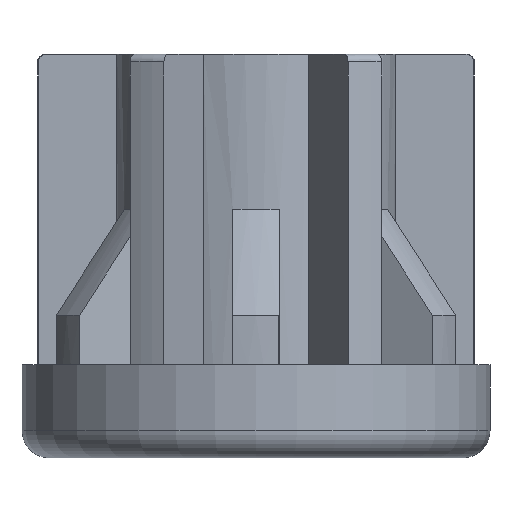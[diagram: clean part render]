
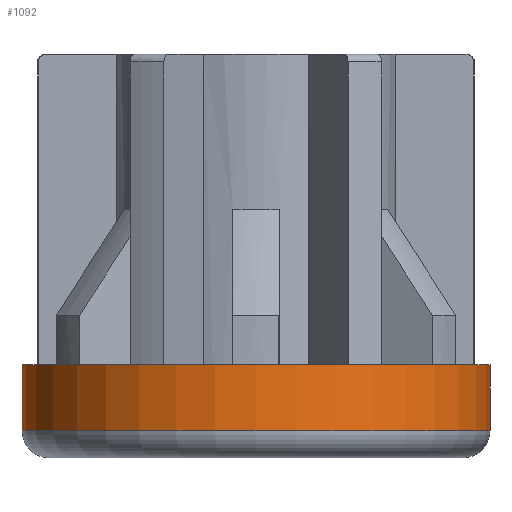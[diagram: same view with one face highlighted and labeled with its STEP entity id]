
A CAD part, front view. The second image highlights one B-rep face of the part: STEP entity #1092.
In plain terms, the highlighted cylindrical face has radius 30.15 mm (diameter 60.3 mm), a partial arc.
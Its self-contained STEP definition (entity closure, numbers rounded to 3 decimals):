
#262 = CARTESIAN_POINT ( 'NONE',  ( 30.15, 0., 11.25 ) ) ;
#347 = ORIENTED_EDGE ( 'NONE', *, *, #1572, .F. ) ;
#612 = DIRECTION ( 'NONE',  ( -1., 0., 0. ) ) ;
#688 = CIRCLE ( 'NONE', #1520, 30.15 ) ;
#732 = VECTOR ( 'NONE', #4115, 1000. ) ;
#788 = VERTEX_POINT ( 'NONE', #2884 ) ;
#1058 = ORIENTED_EDGE ( 'NONE', *, *, #1941, .T. ) ;
#1092 = ADVANCED_FACE ( 'NONE', ( #3381 ), #2428, .T. ) ;
#1239 = DIRECTION ( 'NONE',  ( 0., 0., -1. ) ) ;
#1340 = ORIENTED_EDGE ( 'NONE', *, *, #2157, .T. ) ;
#1352 = EDGE_CURVE ( 'NONE', #3855, #788, #2423, .T. ) ;
#1520 = AXIS2_PLACEMENT_3D ( 'NONE', #3557, #3239, #1630 ) ;
#1548 = CARTESIAN_POINT ( 'NONE',  ( 0., 0., 2.75 ) ) ;
#1572 = EDGE_CURVE ( 'NONE', #3855, #3873, #2051, .T. ) ;
#1630 = DIRECTION ( 'NONE',  ( -1., 0., 0. ) ) ;
#1712 = AXIS2_PLACEMENT_3D ( 'NONE', #2676, #2065, #2658 ) ;
#1787 = CARTESIAN_POINT ( 'NONE',  ( -30.15, 0., 2.75 ) ) ;
#1934 = AXIS2_PLACEMENT_3D ( 'NONE', #1548, #1239, #612 ) ;
#1941 = EDGE_CURVE ( 'NONE', #788, #2213, #688, .T. ) ;
#2051 = CIRCLE ( 'NONE', #1934, 30.15 ) ;
#2065 = DIRECTION ( 'NONE',  ( 0., 0., 1. ) ) ;
#2157 = EDGE_CURVE ( 'NONE', #2213, #3873, #2441, .T. ) ;
#2213 = VERTEX_POINT ( 'NONE', #2605 ) ;
#2261 = DIRECTION ( 'NONE',  ( 0., 0., -1. ) ) ;
#2305 = EDGE_LOOP ( 'NONE', ( #1340, #347, #3728, #1058 ) ) ;
#2310 = CARTESIAN_POINT ( 'NONE',  ( -30.15, 0., 11.25 ) ) ;
#2377 = CARTESIAN_POINT ( 'NONE',  ( 30.15, 0., 2.75 ) ) ;
#2423 = LINE ( 'NONE', #262, #732 ) ;
#2428 = CYLINDRICAL_SURFACE ( 'NONE', #1712, 30.15 ) ;
#2441 = LINE ( 'NONE', #2310, #3854 ) ;
#2605 = CARTESIAN_POINT ( 'NONE',  ( -30.15, 0., 11.25 ) ) ;
#2658 = DIRECTION ( 'NONE',  ( -1., 0., 0. ) ) ;
#2676 = CARTESIAN_POINT ( 'NONE',  ( 0., 0., 11.25 ) ) ;
#2884 = CARTESIAN_POINT ( 'NONE',  ( 30.15, 0., 11.25 ) ) ;
#3239 = DIRECTION ( 'NONE',  ( 0., 0., -1. ) ) ;
#3381 = FACE_OUTER_BOUND ( 'NONE', #2305, .T. ) ;
#3557 = CARTESIAN_POINT ( 'NONE',  ( 0., 0., 11.25 ) ) ;
#3728 = ORIENTED_EDGE ( 'NONE', *, *, #1352, .T. ) ;
#3854 = VECTOR ( 'NONE', #2261, 1000. ) ;
#3855 = VERTEX_POINT ( 'NONE', #2377 ) ;
#3873 = VERTEX_POINT ( 'NONE', #1787 ) ;
#4115 = DIRECTION ( 'NONE',  ( 0., 0., 1. ) ) ;
